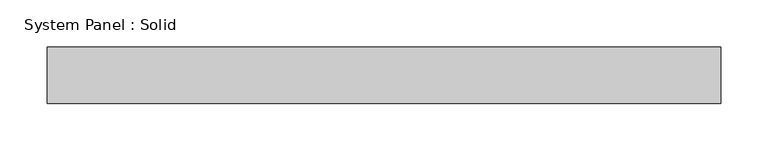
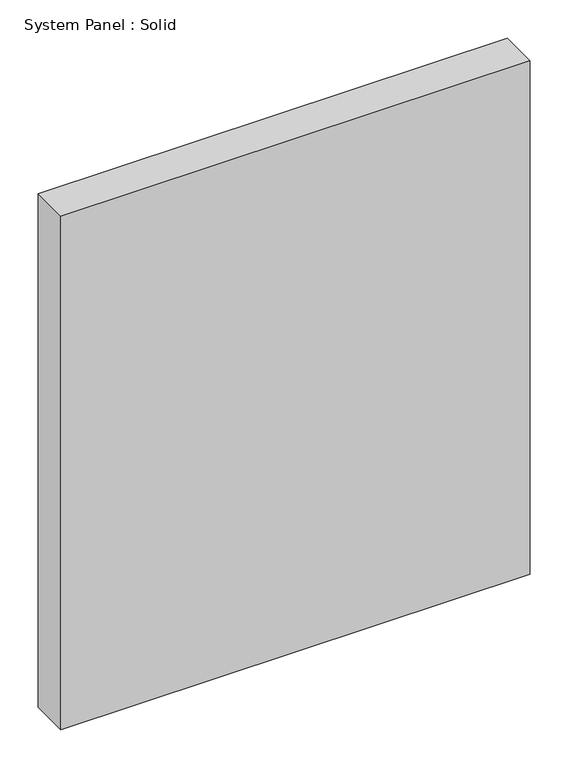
"""IFC4 building model written with IfcOpenShell, lengths in millimetres: plate geometry, System Panel : Solid."""

import ifcopenshell
import ifcopenshell.guid

model = None  # the IFC model being written
_history = None  # IfcOwnerHistory: only IFC2X3 demands one
_inside = {}  # id of a spatial element -> (the spatial element, [elements in it])
_under = {}  # id of a project, library or spatial element -> (it, [spatial elements below it])
_declared = {}  # id of a project -> (the project, [libraries it declares])
_typed = {}  # id of a type object -> (the type object, [elements of that type])
_made_of = {}  # id of a material, layer set ... -> (it, [elements and type objects made of it])


def new_model(schema):
    """Start an empty IFC model of exactly this schema.

    Asked for "IFC4X3", IfcOpenShell would pick the latest addendum, in which some entities
    have other attributes; the version numbers below select the first issue.
    IFC2X3 requires an IfcOwnerHistory on every rooted entity: one is made here for all.
    """
    global model, _history
    if schema == "IFC4X3":
        model = ifcopenshell.file(schema_version=(4, 3, 0, 0))
    else:
        model = ifcopenshell.file(schema=schema)
    _inside.clear()
    _under.clear()
    _declared.clear()
    _typed.clear()
    _made_of.clear()
    _history = None
    if model.schema == "IFC2X3":
        org = make("IfcOrganization", Name="unknown")
        user = make(
            "IfcPersonAndOrganization",
            ThePerson=make("IfcPerson", FamilyName="unknown"),
            TheOrganization=org,
        )
        app = make(
            "IfcApplication",
            ApplicationDeveloper=org,
            Version="unknown",
            ApplicationFullName="unknown",
            ApplicationIdentifier="unknown",
        )
        _history = make(
            "IfcOwnerHistory",
            OwningUser=user,
            OwningApplication=app,
            ChangeAction="ADDED",
            CreationDate=0,
        )
    return model


def make(cls, **values):
    """One entity of the class cls with the attributes given. An attribute that is None is left unset."""
    return model.create_entity(
        cls, **{name: value for name, value in values.items() if value is not None}
    )


def rooted(cls, **values):
    """An entity with a GlobalId (a new one), such as an element, a storey or a relation."""
    return make(cls, GlobalId=ifcopenshell.guid.new(), OwnerHistory=_history, **values)


def si_unit(unit_type, name, prefix=None):
    """IfcSIUnit, for example si_unit("LENGTHUNIT", "METRE", prefix="MILLI")."""
    return make("IfcSIUnit", UnitType=unit_type, Prefix=prefix, Name=name)


def assignment(units):
    """IfcUnitAssignment: the units of a project."""
    return None if units is None else make("IfcUnitAssignment", Units=units)


def point(xyz):
    """IfcCartesianPoint."""
    return None if xyz is None else make("IfcCartesianPoint", Coordinates=xyz)


def direction(xyz):
    """IfcDirection."""
    return None if xyz is None else make("IfcDirection", DirectionRatios=xyz)


def frame(location, z_axis=None, x_axis=None):
    """IfcAxis2Placement3D, a coordinate frame: its origin and axes. An axis left out is left unset."""
    return make(
        "IfcAxis2Placement3D",
        Location=point(location),
        Axis=direction(z_axis),
        RefDirection=direction(x_axis),
    )


def origin():
    """The frame at (0, 0, 0) with its axes left unset."""
    return frame((0.0, 0.0, 0.0))


def origin_with_axes():
    """The frame at (0, 0, 0) with the z axis (0, 0, 1) and the x axis (1, 0, 0) written out."""
    return frame((0.0, 0.0, 0.0), z_axis=(0.0, 0.0, 1.0), x_axis=(1.0, 0.0, 0.0))


def place(relative_to, where):
    """IfcLocalPlacement: puts the frame where relative to a parent placement (None: the world)."""
    return make(
        "IfcLocalPlacement", PlacementRelTo=relative_to, RelativePlacement=where
    )


def context(
    kind, dimensions, precision=None, world=None, true_north=None, identifier=None
):
    """IfcGeometricRepresentationContext, for example the 3D "Model" context."""
    return make(
        "IfcGeometricRepresentationContext",
        ContextIdentifier=identifier,
        ContextType=kind,
        CoordinateSpaceDimension=dimensions,
        Precision=precision,
        WorldCoordinateSystem=world,
        TrueNorth=true_north,
    )


def project(units=None, contexts=None):
    """IfcProject with its units and contexts."""
    return rooted(
        "IfcProject",
        Name="project",
        RepresentationContexts=contexts,
        UnitsInContext=assignment(units),
    )


def spatial(cls, under=None, at=None, **own):
    """A site, building, storey or space (cls), placed at a placement, below another one or the project."""
    s = rooted(cls, ObjectPlacement=at, **own)
    if under is not None:
        _under.setdefault(under.id(), (under, []))[1].append(s)
    return s


def polyline(points):
    """IfcPolyline through the points."""
    return make("IfcPolyline", Points=[point(p) for p in points])


def outline(outer, holes=None, kind="AREA"):
    """IfcArbitraryClosedProfileDef: a profile drawn as a closed curve; with holes, ...WithVoids."""
    if holes is None:
        return make("IfcArbitraryClosedProfileDef", ProfileType=kind, OuterCurve=outer)
    return make(
        "IfcArbitraryProfileDefWithVoids",
        ProfileType=kind,
        OuterCurve=outer,
        InnerCurves=holes,
    )


def extrude(swept, where, along, depth):
    """IfcExtrudedAreaSolid: the profile swept, set in the frame where, extruded along a direction by depth."""
    return make(
        "IfcExtrudedAreaSolid",
        SweptArea=swept,
        Position=where,
        ExtrudedDirection=direction(along),
        Depth=depth,
    )


def shape(context_of_items, identifier, shape_type, items):
    """IfcShapeRepresentation: the items that make up one representation, for example the "Body"."""
    return make(
        "IfcShapeRepresentation",
        ContextOfItems=context_of_items,
        RepresentationIdentifier=identifier,
        RepresentationType=shape_type,
        Items=items,
    )


def source(mapping_origin, context_of_items, identifier, shape_type, items):
    """IfcRepresentationMap: a shape defined once, which mapped items show again and again."""
    return make(
        "IfcRepresentationMap",
        MappingOrigin=mapping_origin,
        MappedRepresentation=shape(context_of_items, identifier, shape_type, items),
    )


def transform(
    local_origin,
    x_axis=None,
    y_axis=None,
    z_axis=None,
    scale=None,
    scale2=None,
    scale3=None,
    uniform=True,
):
    """IfcCartesianTransformationOperator3D, or its non-uniform kind. x_axis, y_axis, z_axis: its Axis1, 2, 3."""
    if uniform:
        return make(
            "IfcCartesianTransformationOperator3D",
            Axis1=direction(x_axis),
            Axis2=direction(y_axis),
            LocalOrigin=point(local_origin),
            Scale=scale,
            Axis3=direction(z_axis),
        )
    return make(
        "IfcCartesianTransformationOperator3DnonUniform",
        Axis1=direction(x_axis),
        Axis2=direction(y_axis),
        LocalOrigin=point(local_origin),
        Scale=scale,
        Axis3=direction(z_axis),
        Scale2=scale2,
        Scale3=scale3,
    )


def mapped(mapping_source, mapping_target):
    """IfcMappedItem: shows the shape of a source again, moved by a transform."""
    return make(
        "IfcMappedItem", MappingSource=mapping_source, MappingTarget=mapping_target
    )


def made_of(thing, what):
    """Note that an element or type object is made of a material, layer set ...; save() writes the relation."""
    if what is not None:
        _made_of.setdefault(what.id(), (what, []))[1].append(thing)
    return thing


def element(
    cls,
    number,
    at=None,
    inside=None,
    cuts=None,
    type_object=None,
    material=None,
    context=None,
    identifier="Body",
    shape_type=None,
    held_by="IfcProductDefinitionShape",
    body=None,
    shapes=None,
    **own,
):
    """One element of the class cls, such as IfcWall. Its Tag is "e" and its number.

    at: its placement. inside: the storey or other place that contains it. cuts: it is an
    opening in that element (IfcRelVoidsElement). A single representation is given by context,
    identifier, shape_type and body (its items); several are given by shapes. held_by: the class
    of the entity that holds the representations. save() writes the other relations.
    """
    e = rooted(cls, Tag="e%d" % number, ObjectPlacement=at, **own)
    if body is not None:
        shapes = [shape(context, identifier, shape_type, body)]
    if shapes is not None:
        e.Representation = make(held_by, Representations=shapes)
    if inside is not None:
        _inside.setdefault(inside.id(), (inside, []))[1].append(e)
    if cuts is not None:
        rooted(
            "IfcRelVoidsElement", RelatingBuildingElement=cuts, RelatedOpeningElement=e
        )
    if type_object is not None:
        _typed.setdefault(type_object.id(), (type_object, []))[1].append(e)
    return made_of(e, material)


def aggregate(whole, parts):
    """IfcRelAggregates: a whole, such as a stair, and the parts it consists of."""
    return rooted("IfcRelAggregates", RelatingObject=whole, RelatedObjects=parts)


def save(model, path):
    """Write the relations noted so far, then the file.

    IfcRelAggregates (storeys below a building ...), IfcRelContainedInSpatialStructure (elements
    in a storey), IfcRelDefinesByType, IfcRelAssociatesMaterial and IfcRelDeclares: one each for
    every whole, place, type object, material and project.
    """
    for whole, parts in _under.values():
        aggregate(whole, parts)
    for where, things in _inside.values():
        rooted(
            "IfcRelContainedInSpatialStructure",
            RelatedElements=things,
            RelatingStructure=where,
        )
    for kind, things in _typed.values():
        rooted("IfcRelDefinesByType", RelatedObjects=things, RelatingType=kind)
    for what, things in _made_of.values():
        rooted("IfcRelAssociatesMaterial", RelatedObjects=things, RelatingMaterial=what)
    for by, libraries in _declared.values():
        rooted("IfcRelDeclares", RelatingContext=by, RelatedDefinitions=libraries)
    model.write(path)


def system_panel_solid_ce425cba(model_context):
    return source(origin(), model_context, "Body", "SweptSolid", [
        extrude(outline(polyline([(356.6666668, -10.5), (-356.6666668, -10.5), (-356.6666668, 49.5), (356.6666668, 49.5), (356.6666668, -10.5)])), origin_with_axes(), (0.0, 0.0, 1.0), 825.0),
    ])


if __name__ == "__main__":
    model = new_model("IFC4")
    model_context = context("Model", 3, world=origin())
    ifc_project = project(units=[si_unit("LENGTHUNIT", "METRE", prefix="MILLI")], contexts=[model_context])
    site = spatial("IfcSite", under=ifc_project)
    building = spatial("IfcBuilding", under=site)
    placement = place(None, origin())
    system_panel_solid_shape = system_panel_solid_ce425cba(model_context)
    element("IfcPlate", 1, ObjectType="System Panel : Solid", at=placement, inside=building, context=model_context, shape_type="MappedRepresentation", body=[
        mapped(system_panel_solid_shape, transform((0.0, 0.0, 0.0), x_axis=(1.0, 0.0, 0.0), y_axis=(0.0, 1.0, 0.0), z_axis=(0.0, 0.0, 1.0))),
    ])
    save(model, "model.ifc")
